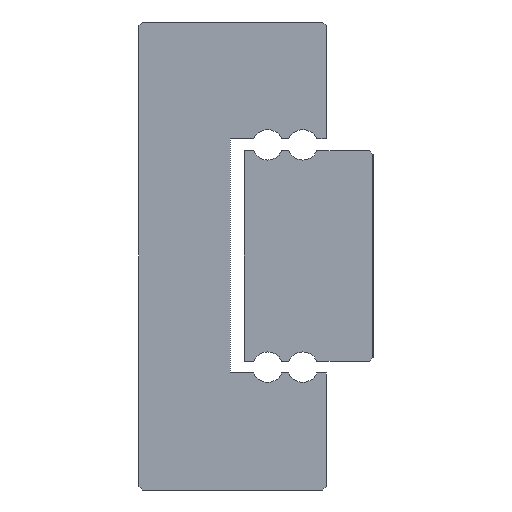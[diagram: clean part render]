
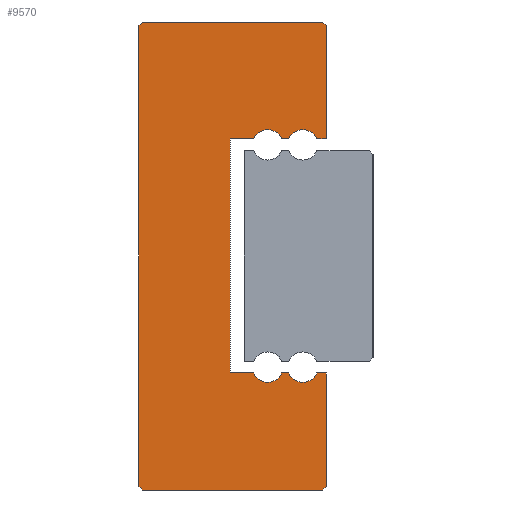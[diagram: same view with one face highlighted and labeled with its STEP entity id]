
A CAD part, left-side view. The second image highlights one B-rep face of the part: STEP entity #9570.
In plain terms, the highlighted planar face has unit normal (-1, 0, 0).
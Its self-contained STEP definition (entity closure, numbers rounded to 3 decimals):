
#318=CIRCLE('',#10402,0.65);
#320=CIRCLE('',#10406,0.65);
#322=CIRCLE('',#10412,0.65);
#324=CIRCLE('',#10416,0.65);
#1622=ORIENTED_EDGE('',*,*,#4004,.F.);
#1623=ORIENTED_EDGE('',*,*,#4456,.F.);
#1624=ORIENTED_EDGE('',*,*,#4453,.F.);
#1625=ORIENTED_EDGE('',*,*,#4438,.F.);
#1626=ORIENTED_EDGE('',*,*,#4435,.F.);
#1627=ORIENTED_EDGE('',*,*,#4432,.F.);
#1628=ORIENTED_EDGE('',*,*,#4429,.F.);
#1629=ORIENTED_EDGE('',*,*,#4426,.F.);
#1630=ORIENTED_EDGE('',*,*,#4423,.T.);
#1631=ORIENTED_EDGE('',*,*,#4420,.F.);
#1632=ORIENTED_EDGE('',*,*,#4417,.T.);
#1633=ORIENTED_EDGE('',*,*,#4414,.F.);
#1634=ORIENTED_EDGE('',*,*,#4411,.F.);
#1635=ORIENTED_EDGE('',*,*,#4408,.F.);
#1636=ORIENTED_EDGE('',*,*,#4405,.T.);
#1637=ORIENTED_EDGE('',*,*,#4402,.F.);
#1638=ORIENTED_EDGE('',*,*,#4399,.T.);
#1639=ORIENTED_EDGE('',*,*,#4396,.F.);
#1640=ORIENTED_EDGE('',*,*,#4393,.F.);
#1641=ORIENTED_EDGE('',*,*,#4390,.F.);
#4004=EDGE_CURVE('',#5458,#5459,#6444,.T.);
#4390=EDGE_CURVE('',#5459,#5844,#6582,.T.);
#4393=EDGE_CURVE('',#5844,#5846,#6585,.T.);
#4396=EDGE_CURVE('',#5846,#5848,#6588,.T.);
#4399=EDGE_CURVE('',#5850,#5848,#318,.T.);
#4402=EDGE_CURVE('',#5850,#5852,#6592,.T.);
#4405=EDGE_CURVE('',#5854,#5852,#320,.T.);
#4408=EDGE_CURVE('',#5854,#5856,#6596,.T.);
#4411=EDGE_CURVE('',#5856,#5858,#6599,.T.);
#4414=EDGE_CURVE('',#5858,#5860,#6602,.T.);
#4417=EDGE_CURVE('',#5862,#5860,#322,.T.);
#4420=EDGE_CURVE('',#5862,#5864,#6606,.T.);
#4423=EDGE_CURVE('',#5866,#5864,#324,.T.);
#4426=EDGE_CURVE('',#5866,#5868,#6610,.T.);
#4429=EDGE_CURVE('',#5868,#5870,#6613,.T.);
#4432=EDGE_CURVE('',#5870,#5872,#6616,.T.);
#4435=EDGE_CURVE('',#5872,#5874,#6619,.T.);
#4438=EDGE_CURVE('',#5874,#5876,#6622,.T.);
#4453=EDGE_CURVE('',#5876,#5890,#6625,.T.);
#4456=EDGE_CURVE('',#5890,#5458,#6628,.T.);
#5458=VERTEX_POINT('',#14657);
#5459=VERTEX_POINT('',#14658);
#5844=VERTEX_POINT('',#15430);
#5846=VERTEX_POINT('',#15436);
#5848=VERTEX_POINT('',#15442);
#5850=VERTEX_POINT('',#15448);
#5852=VERTEX_POINT('',#15454);
#5854=VERTEX_POINT('',#15460);
#5856=VERTEX_POINT('',#15466);
#5858=VERTEX_POINT('',#15472);
#5860=VERTEX_POINT('',#15478);
#5862=VERTEX_POINT('',#15484);
#5864=VERTEX_POINT('',#15490);
#5866=VERTEX_POINT('',#15496);
#5868=VERTEX_POINT('',#15502);
#5870=VERTEX_POINT('',#15508);
#5872=VERTEX_POINT('',#15514);
#5874=VERTEX_POINT('',#15520);
#5876=VERTEX_POINT('',#15526);
#5890=VERTEX_POINT('',#15556);
#6444=LINE('',#14656,#7260);
#6582=LINE('',#15429,#7398);
#6585=LINE('',#15435,#7401);
#6588=LINE('',#15441,#7404);
#6592=LINE('',#15453,#7408);
#6596=LINE('',#15465,#7412);
#6599=LINE('',#15471,#7415);
#6602=LINE('',#15477,#7418);
#6606=LINE('',#15489,#7422);
#6610=LINE('',#15501,#7426);
#6613=LINE('',#15507,#7429);
#6616=LINE('',#15513,#7432);
#6619=LINE('',#15519,#7435);
#6622=LINE('',#15525,#7438);
#6625=LINE('',#15555,#7441);
#6628=LINE('',#15561,#7444);
#7260=VECTOR('',#11441,1000.);
#7398=VECTOR('',#12077,1000.);
#7401=VECTOR('',#12082,1000.);
#7404=VECTOR('',#12087,1000.);
#7408=VECTOR('',#12099,1000.);
#7412=VECTOR('',#12111,1000.);
#7415=VECTOR('',#12116,1000.);
#7418=VECTOR('',#12121,1000.);
#7422=VECTOR('',#12133,1000.);
#7426=VECTOR('',#12145,1000.);
#7429=VECTOR('',#12150,1000.);
#7432=VECTOR('',#12155,1000.);
#7435=VECTOR('',#12160,1000.);
#7438=VECTOR('',#12165,1000.);
#7441=VECTOR('',#12194,1000.);
#7444=VECTOR('',#12199,1000.);
#8140=EDGE_LOOP('',(#1622,#1623,#1624,#1625,#1626,#1627,#1628,#1629,#1630,
#1631,#1632,#1633,#1634,#1635,#1636,#1637,#1638,#1639,#1640,#1641));
#8772=FACE_BOUND('',#8140,.T.);
#9335=PLANE('',#10438);
#9570=ADVANCED_FACE('',(#8772),#9335,.F.);
#10402=AXIS2_PLACEMENT_3D('',#15447,#12092,#12093);
#10406=AXIS2_PLACEMENT_3D('',#15459,#12104,#12105);
#10412=AXIS2_PLACEMENT_3D('',#15483,#12126,#12127);
#10416=AXIS2_PLACEMENT_3D('',#15495,#12138,#12139);
#10438=AXIS2_PLACEMENT_3D('',#15564,#12203,#12204);
#11441=DIRECTION('',(0.,-1.,0.));
#12077=DIRECTION('',(0.,-0.707,-0.707));
#12082=DIRECTION('',(0.,0.,-1.));
#12087=DIRECTION('',(0.,1.,0.));
#12092=DIRECTION('',(1.,0.,0.));
#12093=DIRECTION('',(0.,0.,-1.));
#12099=DIRECTION('',(0.,1.,0.));
#12104=DIRECTION('',(1.,0.,0.));
#12105=DIRECTION('',(0.,0.,-1.));
#12111=DIRECTION('',(0.,1.,0.));
#12116=DIRECTION('',(0.,0.,-1.));
#12121=DIRECTION('',(0.,-1.,0.));
#12126=DIRECTION('',(1.,0.,0.));
#12127=DIRECTION('',(0.,0.,-1.));
#12133=DIRECTION('',(0.,-1.,0.));
#12138=DIRECTION('',(1.,0.,0.));
#12139=DIRECTION('',(0.,0.,-1.));
#12145=DIRECTION('',(0.,-1.,0.));
#12150=DIRECTION('',(0.,0.,-1.));
#12155=DIRECTION('',(0.,0.707,-0.707));
#12160=DIRECTION('',(0.,1.,0.));
#12165=DIRECTION('',(0.,0.707,0.707));
#12194=DIRECTION('',(0.,0.,1.));
#12199=DIRECTION('',(0.,-0.707,0.707));
#12203=DIRECTION('',(1.,0.,0.));
#12204=DIRECTION('',(0.,0.,-1.));
#14656=CARTESIAN_POINT('',(-35.,7.85,10.));
#14657=CARTESIAN_POINT('',(-35.,7.85,10.));
#14658=CARTESIAN_POINT('',(-35.,0.15,10.));
#15429=CARTESIAN_POINT('',(-35.,0.15,10.));
#15430=CARTESIAN_POINT('',(-35.,0.,9.85));
#15435=CARTESIAN_POINT('',(-35.,0.,9.85));
#15436=CARTESIAN_POINT('',(-35.,0.,5.));
#15441=CARTESIAN_POINT('',(-35.,0.,5.));
#15442=CARTESIAN_POINT('',(-35.,0.4,5.));
#15447=CARTESIAN_POINT('',(-35.,1.,4.75));
#15448=CARTESIAN_POINT('',(-35.,1.6,5.));
#15453=CARTESIAN_POINT('',(-35.,1.6,5.));
#15454=CARTESIAN_POINT('',(-35.,1.9,5.));
#15459=CARTESIAN_POINT('',(-35.,2.5,4.75));
#15460=CARTESIAN_POINT('',(-35.,3.1,5.));
#15465=CARTESIAN_POINT('',(-35.,3.1,5.));
#15466=CARTESIAN_POINT('',(-35.,4.1,5.));
#15471=CARTESIAN_POINT('',(-35.,4.1,5.));
#15472=CARTESIAN_POINT('',(-35.,4.1,-5.));
#15477=CARTESIAN_POINT('',(-35.,4.1,-5.));
#15478=CARTESIAN_POINT('',(-35.,3.1,-5.));
#15483=CARTESIAN_POINT('',(-35.,2.5,-4.75));
#15484=CARTESIAN_POINT('',(-35.,1.9,-5.));
#15489=CARTESIAN_POINT('',(-35.,1.9,-5.));
#15490=CARTESIAN_POINT('',(-35.,1.6,-5.));
#15495=CARTESIAN_POINT('',(-35.,1.,-4.75));
#15496=CARTESIAN_POINT('',(-35.,0.4,-5.));
#15501=CARTESIAN_POINT('',(-35.,0.4,-5.));
#15502=CARTESIAN_POINT('',(-35.,0.,-5.));
#15507=CARTESIAN_POINT('',(-35.,0.,-5.));
#15508=CARTESIAN_POINT('',(-35.,0.,-9.85));
#15513=CARTESIAN_POINT('',(-35.,0.,-9.85));
#15514=CARTESIAN_POINT('',(-35.,0.15,-10.));
#15519=CARTESIAN_POINT('',(-35.,0.15,-10.));
#15520=CARTESIAN_POINT('',(-35.,7.85,-10.));
#15525=CARTESIAN_POINT('',(-35.,7.85,-10.));
#15526=CARTESIAN_POINT('',(-35.,8.,-9.85));
#15555=CARTESIAN_POINT('',(-35.,8.,-9.85));
#15556=CARTESIAN_POINT('',(-35.,8.,9.85));
#15561=CARTESIAN_POINT('',(-35.,8.,9.85));
#15564=CARTESIAN_POINT('',(-35.,1.,4.75));
